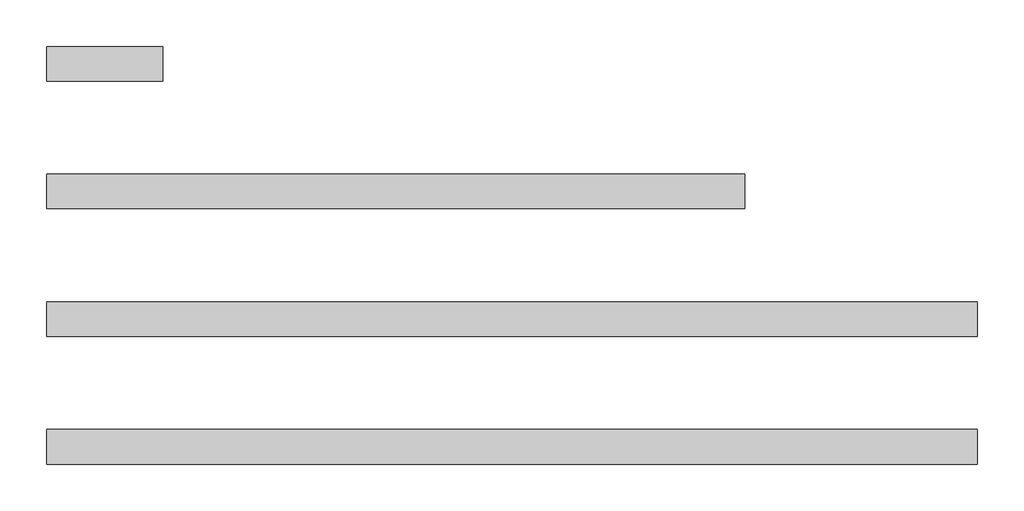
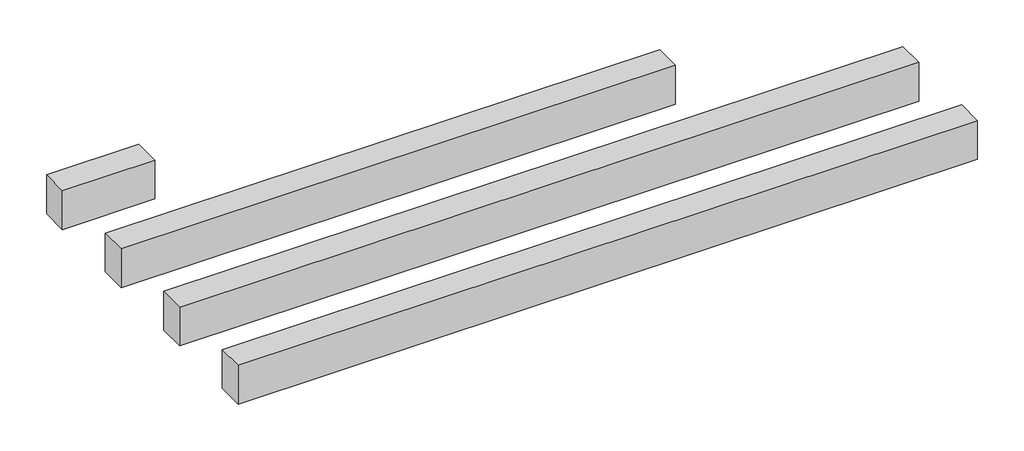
# One storey: 4 duct segments.
"""IFC4 building model written with IfcOpenShell, lengths in millimetres."""

from ifc_helpers import new_model, si_unit, frame, origin, place, context, project, spatial, polyline, outline, extrude, element, save

model = new_model("IFC4")

# Units and contexts
model_context = context("Model", 3, world=origin())
ifc_project = project(units=[si_unit("LENGTHUNIT", "METRE", prefix="MILLI")], contexts=[model_context])

# Site, building, storey
site = spatial("IfcSite", under=ifc_project)
building = spatial("IfcBuilding", under=site)
storey = spatial("IfcBuildingStorey", under=building, Name="Уровень 1", Elevation=0.0)

# Duct segments
placement = place(None, origin())
element("IfcDuctSegment", 1, ObjectType="SH_SP_TR_Секция прямая транспортировочная_IEK_L=3000", at=placement, inside=storey, context=model_context, shape_type="SweptSolid", body=[
    extrude(outline(polyline([(0.0, 1098.0), (0.0, 1247.0), (3000.0, 1247.0), (3000.0, 1098.0), (0.0, 1098.0)])), frame((0.0, 0.0, -111.0), z_axis=(0.0, 0.0, 1.0), x_axis=(1.0, 0.0, 0.0)), (0.0, 0.0, 1.0), 222.0),
])
element("IfcDuctSegment", 2, ObjectType="SH_SP_RS_Секция прямая распределительная_IEK_L=4000", at=placement, inside=storey, context=model_context, shape_type="SweptSolid", body=[
    extrude(outline(polyline([(0.0, 549.0), (0.0, 698.0), (4000.0, 698.0), (4000.0, 549.0), (0.0, 549.0)])), frame((0.0, 0.0, -111.0), z_axis=(0.0, 0.0, 1.0), x_axis=(1.0, 0.0, 0.0)), (0.0, 0.0, 1.0), 222.0),
])
element("IfcDuctSegment", 3, ObjectType="SH_SP_TR_Секция прямая транспортировочная_IEK_L=500", at=placement, inside=storey, context=model_context, shape_type="SweptSolid", body=[
    extrude(outline(polyline([(0.0, 1647.0), (0.0, 1796.0), (500.0, 1796.0), (500.0, 1647.0), (0.0, 1647.0)])), frame((0.0, 0.0, -111.0), z_axis=(0.0, 0.0, 1.0), x_axis=(1.0, 0.0, 0.0)), (0.0, 0.0, 1.0), 222.0),
])
element("IfcDuctSegment", 4, ObjectType="SH_SP_TR_Секция прямая транспортировочная_IEK_L=4000", at=placement, inside=storey, context=model_context, shape_type="SweptSolid", body=[
    extrude(outline(polyline([(0.0, 0.0), (0.0, 149.0), (4000.0, 149.0), (4000.0, 0.0), (0.0, 0.0)])), frame((0.0, 0.0, -111.0), z_axis=(0.0, 0.0, 1.0), x_axis=(1.0, 0.0, 0.0)), (0.0, 0.0, 1.0), 222.0),
])

save(model, "model.ifc")
